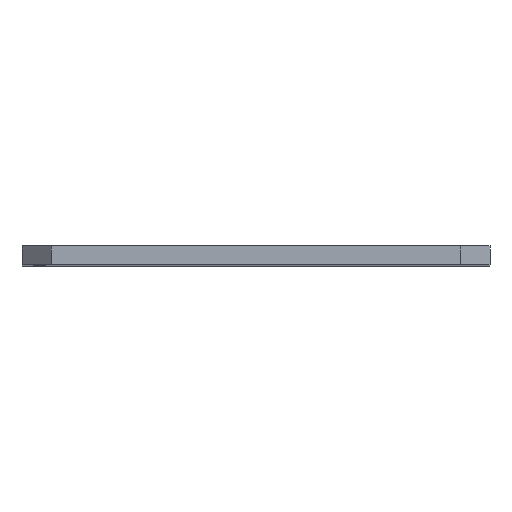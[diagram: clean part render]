
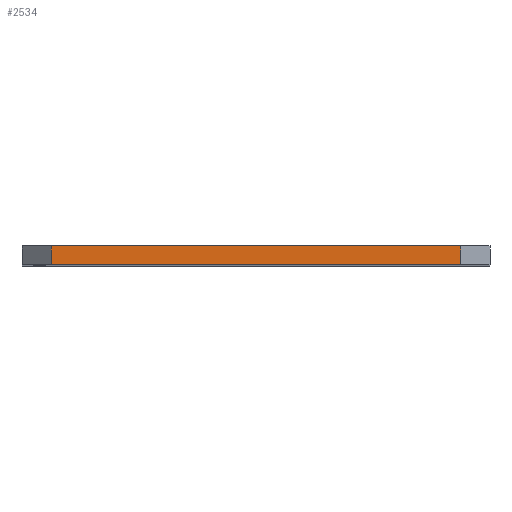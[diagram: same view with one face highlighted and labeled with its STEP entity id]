
A CAD part, top view. The second image highlights one B-rep face of the part: STEP entity #2534.
In plain terms, the highlighted planar face has unit normal (0, 0, 1).
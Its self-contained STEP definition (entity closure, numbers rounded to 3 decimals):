
#22 = CARTESIAN_POINT ( 'NONE',  ( 202., 1.6, -7.353 ) ) ;
#36 = VECTOR ( 'NONE', #2497, 1000. ) ;
#79 = CARTESIAN_POINT ( 'NONE',  ( 202., 0., -7.353 ) ) ;
#115 = ORIENTED_EDGE ( 'NONE', *, *, #340, .T. ) ;
#152 = VERTEX_POINT ( 'NONE', #1952 ) ;
#210 = EDGE_CURVE ( 'NONE', #578, #152, #2401, .T. ) ;
#340 = EDGE_CURVE ( 'NONE', #1442, #2554, #2671, .T. ) ;
#376 = AXIS2_PLACEMENT_3D ( 'NONE', #2445, #488, #1349 ) ;
#393 = CARTESIAN_POINT ( 'NONE',  ( 237., 1.6, -7.353 ) ) ;
#488 = DIRECTION ( 'NONE',  ( 0., 0., -1. ) ) ;
#520 = EDGE_CURVE ( 'NONE', #152, #2554, #1029, .T. ) ;
#555 = VECTOR ( 'NONE', #643, 1000. ) ;
#562 = ORIENTED_EDGE ( 'NONE', *, *, #1854, .T. ) ;
#578 = VERTEX_POINT ( 'NONE', #2598 ) ;
#643 = DIRECTION ( 'NONE',  ( 1., 0., 0. ) ) ;
#679 = ORIENTED_EDGE ( 'NONE', *, *, #210, .F. ) ;
#701 = FACE_OUTER_BOUND ( 'NONE', #2489, .T. ) ;
#910 = CARTESIAN_POINT ( 'NONE',  ( 237., 1.6, -7.353 ) ) ;
#923 = CARTESIAN_POINT ( 'NONE',  ( 237., 0., -7.353 ) ) ;
#1029 = LINE ( 'NONE', #393, #1420 ) ;
#1116 = LINE ( 'NONE', #22, #1759 ) ;
#1349 = DIRECTION ( 'NONE',  ( -1., 0., 0. ) ) ;
#1420 = VECTOR ( 'NONE', #2109, 1000. ) ;
#1442 = VERTEX_POINT ( 'NONE', #79 ) ;
#1506 = DIRECTION ( 'NONE',  ( 0., -1., 0. ) ) ;
#1566 = PLANE ( 'NONE',  #376 ) ;
#1624 = CARTESIAN_POINT ( 'NONE',  ( 237., 0., -7.353 ) ) ;
#1742 = ORIENTED_EDGE ( 'NONE', *, *, #520, .F. ) ;
#1759 = VECTOR ( 'NONE', #1506, 1000. ) ;
#1854 = EDGE_CURVE ( 'NONE', #578, #1442, #1116, .T. ) ;
#1952 = CARTESIAN_POINT ( 'NONE',  ( 237., 1.6, -7.353 ) ) ;
#2109 = DIRECTION ( 'NONE',  ( 0., -1., 0. ) ) ;
#2401 = LINE ( 'NONE', #910, #555 ) ;
#2445 = CARTESIAN_POINT ( 'NONE',  ( 237., 1.6, -7.353 ) ) ;
#2489 = EDGE_LOOP ( 'NONE', ( #115, #1742, #679, #562 ) ) ;
#2497 = DIRECTION ( 'NONE',  ( 1., 0., 0. ) ) ;
#2534 = ADVANCED_FACE ( 'NONE', ( #701 ), #1566, .F. ) ;
#2554 = VERTEX_POINT ( 'NONE', #1624 ) ;
#2598 = CARTESIAN_POINT ( 'NONE',  ( 202., 1.6, -7.353 ) ) ;
#2671 = LINE ( 'NONE', #923, #36 ) ;
